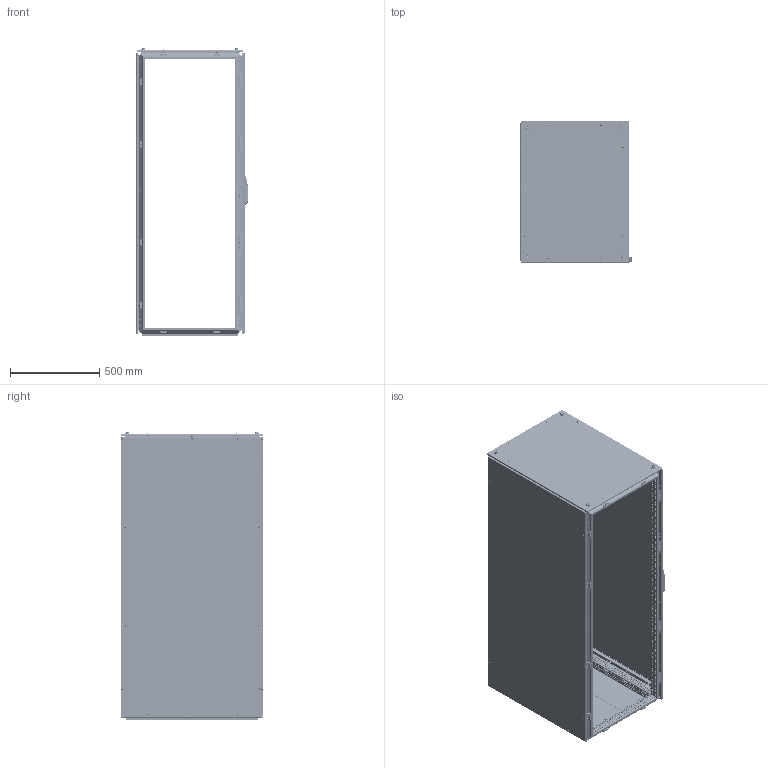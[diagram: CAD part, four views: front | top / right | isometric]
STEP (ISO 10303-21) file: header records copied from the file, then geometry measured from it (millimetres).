
FILE_DESCRIPTION(('STEP AP203'), '1');
FILE_NAME('ØÍÑ ÊÑ PRO II Êîðïóñ ÑÁ', '', ('UNSPECIFIED'), ('UNSPECIFIED'), 'C3D Converter', 'C3D Toolkit', '');
FILE_SCHEMA(('CONFIG_CONTROL_DESIGN'));
Length unit declared in the file: millimetre
Products named in the file (50): 3110.160.80.60; 3000; 3007.175; 3007.75; 3007.200; 3009.04; 3009.04.01; 3009.04.2; 3009.04.01.2; 3301; 3310; 3311; 3302; 3211; 3410; 3420; 3421; 3422.01; 3412; 3411; 2952; 3009.05; 3009.05.01; 3622.01; 3009.08; 3009.08.01
Assembly tree (311 placements, depth 5):
  3110.160.80.60
    3000
      3000
      (unnamed)  x96
      3007.175
      (unnamed)  x10
      3007.75
      3007.200
      3009.04  x10
        3009.04.01
        (unnamed)
        (unnamed)
      3009.04.2  x15
        3009.04.01.2
        (unnamed)
        (unnamed)
    3301
      3310
        3311
        (unnamed)
      (unnamed)  x10
      (unnamed)  x10
      (unnamed)  x4
      (unnamed)  x4
    3302
      3211
      (unnamed)  x2
      (unnamed)  x14
    3410
      3420
        3421
        3422.01  x4
        (unnamed)  x14
        (unnamed)  x8
        (unnamed)  x2
      3412  x2
      3411  x2
      (unnamed)  x4
      (unnamed)  x14
      (unnamed)  x22
      (unnamed)  x8
      2952
        (unnamed)
          (unnamed)
          (unnamed)
          (unnamed)
          (unnamed)
          (unnamed)
      (unnamed)  x2
      3009.05  x4
        3009.05.01
        (unnamed)
        (unnamed)
      3622.01  x4
      (unnamed)  x4
      3009.08  x4
        3009.08.01
        (unnamed)
        (unnamed)
Bounding box: 624.04 x 797.07 x 1616 mm (x, y, z)
Volume: 9566308.6 mm3; surface area: 12199861.8 mm2
Topology: 420 solids, 420 shells, 21818 faces, 59400 edges, 39062 vertices
Faces by surface type: plane 14653, cylinder 5334, cone 1211, torus 376, bspline 215, sphere 29
Full cylindrical faces by diameter (mm): 0.5 x22, 4.134 x144, 4.3 x2, 4.5 x1868, 4.8 x10, 4.917 x22, 5 x194, 5.2 x1, 5.5 x10, 5.8 x48, 6 x53, 6.1 x4, 6.6 x22, 6.75 x22, 6.8 x192, 7 x104, 7.3 x22, 7.5 x82, 8 x116, 8.3 x16, 8.5 x11, 9.2 x82, 10 x33, 10.106 x8, 10.5 x4, 11.5 x10, 12 x30, 13 x1, 13.5 x4, 14 x8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
Entity records: 437124 total; most frequent: CARTESIAN_POINT 96948, ORIENTED_EDGE 64764, DIRECTION 61806, EDGE_CURVE 32382, LINE 25342, VECTOR 25342, VERTEX_POINT 22645, EDGE_LOOP 21661
